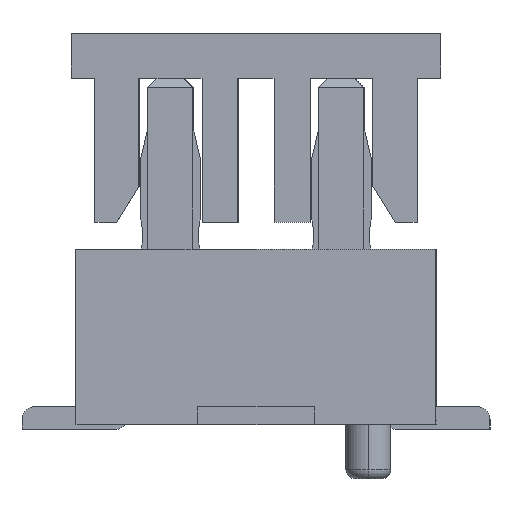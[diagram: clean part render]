
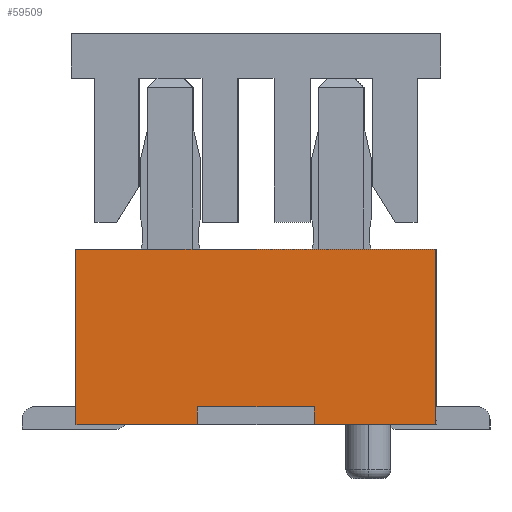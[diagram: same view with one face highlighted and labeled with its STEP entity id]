
A CAD part, left-side view. The second image highlights one B-rep face of the part: STEP entity #59509.
In plain terms, the highlighted planar face has unit normal (-1, 0, 0).
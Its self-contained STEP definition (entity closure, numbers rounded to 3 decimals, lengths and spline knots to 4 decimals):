
#2898 = EDGE_CURVE ( 'NONE', #9752, #50374, #19453, .T. ) ;
#3809 = VECTOR ( 'NONE', #59846, 1000. ) ;
#4492 = ORIENTED_EDGE ( 'NONE', *, *, #7602, .F. ) ;
#4834 = CARTESIAN_POINT ( 'NONE',  ( -4.95, 0., 1.95 ) ) ;
#7374 = CARTESIAN_POINT ( 'NONE',  ( -4.95, 2., 1.95 ) ) ;
#7411 = VECTOR ( 'NONE', #74898, 1000. ) ;
#7602 = EDGE_CURVE ( 'NONE', #38921, #37173, #49746, .T. ) ;
#8046 = CARTESIAN_POINT ( 'NONE',  ( -4.95, 2., 0.975 ) ) ;
#9752 = VERTEX_POINT ( 'NONE', #21800 ) ;
#14251 = AXIS2_PLACEMENT_3D ( 'NONE', #78452, #71652, #48698 ) ;
#18322 = CARTESIAN_POINT ( 'NONE',  ( -4.95, 0.65, 0. ) ) ;
#18845 = LINE ( 'NONE', #73505, #42314 ) ;
#19453 = LINE ( 'NONE', #69270, #56060 ) ;
#20722 = CARTESIAN_POINT ( 'NONE',  ( -4.95, 0., 0.2 ) ) ;
#20961 = ORIENTED_EDGE ( 'NONE', *, *, #58562, .F. ) ;
#21800 = CARTESIAN_POINT ( 'NONE',  ( -4.95, -0.65, 0. ) ) ;
#23635 = EDGE_CURVE ( 'NONE', #50374, #65401, #46015, .T. ) ;
#24189 = PLANE ( 'NONE',  #14251 ) ;
#25140 = CARTESIAN_POINT ( 'NONE',  ( -4.95, 0.65, 0.2 ) ) ;
#26028 = DIRECTION ( 'NONE',  ( 0., 0., -1. ) ) ;
#26074 = ORIENTED_EDGE ( 'NONE', *, *, #44889, .F. ) ;
#26840 = CARTESIAN_POINT ( 'NONE',  ( -4.95, -2., 0.975 ) ) ;
#27309 = LINE ( 'NONE', #8046, #32022 ) ;
#27623 = CARTESIAN_POINT ( 'NONE',  ( -4.95, 2., 0. ) ) ;
#28632 = ORIENTED_EDGE ( 'NONE', *, *, #23635, .F. ) ;
#31483 = LINE ( 'NONE', #57216, #7411 ) ;
#32022 = VECTOR ( 'NONE', #76331, 1000. ) ;
#34588 = DIRECTION ( 'NONE',  ( 0., -1., 0. ) ) ;
#37173 = VERTEX_POINT ( 'NONE', #58283 ) ;
#37595 = VERTEX_POINT ( 'NONE', #27623 ) ;
#37771 = ORIENTED_EDGE ( 'NONE', *, *, #39468, .T. ) ;
#38306 = VERTEX_POINT ( 'NONE', #7374 ) ;
#38921 = VERTEX_POINT ( 'NONE', #42847 ) ;
#39468 = EDGE_CURVE ( 'NONE', #64228, #65401, #31483, .T. ) ;
#39827 = VECTOR ( 'NONE', #34588, 1000. ) ;
#40980 = CARTESIAN_POINT ( 'NONE',  ( -4.95, 1.325, 0. ) ) ;
#42314 = VECTOR ( 'NONE', #62651, 1000. ) ;
#42847 = CARTESIAN_POINT ( 'NONE',  ( -4.95, -2., 1.95 ) ) ;
#44519 = EDGE_CURVE ( 'NONE', #38306, #38921, #53444, .T. ) ;
#44889 = EDGE_CURVE ( 'NONE', #37595, #38306, #27309, .T. ) ;
#45620 = ORIENTED_EDGE ( 'NONE', *, *, #2898, .F. ) ;
#46015 = LINE ( 'NONE', #20722, #77519 ) ;
#48698 = DIRECTION ( 'NONE',  ( 0., 1., 0. ) ) ;
#49746 = LINE ( 'NONE', #26840, #74990 ) ;
#50374 = VERTEX_POINT ( 'NONE', #61977 ) ;
#53444 = LINE ( 'NONE', #4834, #39827 ) ;
#54644 = ORIENTED_EDGE ( 'NONE', *, *, #44519, .F. ) ;
#56060 = VECTOR ( 'NONE', #62422, 1000. ) ;
#57216 = CARTESIAN_POINT ( 'NONE',  ( -4.95, 0.65, 0.1 ) ) ;
#58283 = CARTESIAN_POINT ( 'NONE',  ( -4.95, -2., 0. ) ) ;
#58562 = EDGE_CURVE ( 'NONE', #64228, #37595, #59456, .T. ) ;
#58785 = EDGE_CURVE ( 'NONE', #37173, #9752, #18845, .T. ) ;
#59456 = LINE ( 'NONE', #40980, #3809 ) ;
#59509 = ADVANCED_FACE ( 'NONE', ( #79225 ), #24189, .F. ) ;
#59846 = DIRECTION ( 'NONE',  ( 0., 1., 0. ) ) ;
#61977 = CARTESIAN_POINT ( 'NONE',  ( -4.95, -0.65, 0.2 ) ) ;
#62422 = DIRECTION ( 'NONE',  ( 0., 0., 1. ) ) ;
#62651 = DIRECTION ( 'NONE',  ( 0., 1., 0. ) ) ;
#64228 = VERTEX_POINT ( 'NONE', #18322 ) ;
#65401 = VERTEX_POINT ( 'NONE', #25140 ) ;
#68505 = EDGE_LOOP ( 'NONE', ( #37771, #28632, #45620, #70864, #4492, #54644, #26074, #20961 ) ) ;
#69270 = CARTESIAN_POINT ( 'NONE',  ( -4.95, -0.65, 0.1 ) ) ;
#70864 = ORIENTED_EDGE ( 'NONE', *, *, #58785, .F. ) ;
#71652 = DIRECTION ( 'NONE',  ( 1., 0., 0. ) ) ;
#73505 = CARTESIAN_POINT ( 'NONE',  ( -4.95, -1.325, 0. ) ) ;
#74898 = DIRECTION ( 'NONE',  ( 0., 0., 1. ) ) ;
#74990 = VECTOR ( 'NONE', #26028, 1000. ) ;
#75765 = DIRECTION ( 'NONE',  ( 0., 1., 0. ) ) ;
#76331 = DIRECTION ( 'NONE',  ( 0., 0., 1. ) ) ;
#77519 = VECTOR ( 'NONE', #75765, 1000. ) ;
#78452 = CARTESIAN_POINT ( 'NONE',  ( -4.95, 0., 0. ) ) ;
#79225 = FACE_OUTER_BOUND ( 'NONE', #68505, .T. ) ;
